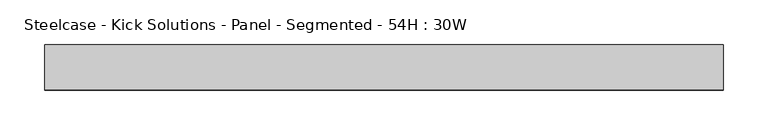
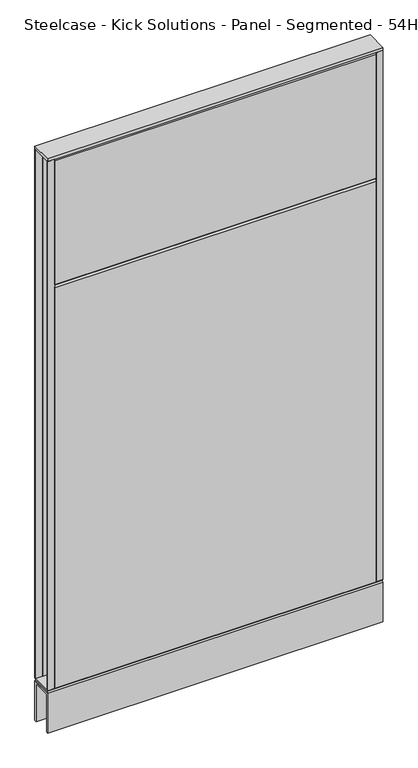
"""IFC4 building model written with IfcOpenShell, lengths in millimetres: furniture geometry, Steelcase - Kick Solutions - Panel - Segmented - 54H : 30W."""

from ifc_helpers import new_model, si_unit, frame, origin, place, context, project, spatial, polyline, outline, extrude, source, transform, mapped, element, save


def steelcase_kick_solutions_panel_segmented_54h_30w_51b34066(model_context):
    return source(origin(), model_context, "Body", "SweptSolid", [
        extrude(outline(polyline([(1.5e-06, 101.600003), (-3.175, 101.600003), (-3.175, 1371.6), (1.5e-06, 1368.5188448), (1.5e-06, 101.600003)])), frame((15.8749996, 0.0, 0.0), z_axis=(1.0, 0.0, 0.0), x_axis=(0.0, 1.0, 0.0)), (0.0, 0.0, 1.0), 730.2500008),
        extrude(outline(polyline([(-50.8000015, 1069.8811552), (-50.8000015, 1368.5188448), (-47.625, 1371.6), (-47.625, 1066.8), (-50.8000015, 1069.8811552)])), frame((15.8749996, 0.0, 0.0), z_axis=(1.0, 0.0, 0.0), x_axis=(0.0, 1.0, 0.0)), (0.0, 0.0, 1.0), 730.2500008),
        extrude(outline(polyline([(-50.8000015, 101.600003), (-50.8000015, 1063.7188448), (-47.625, 1066.8), (-47.625, 101.600003), (-50.8000015, 101.600003)])), frame((15.8749996, 0.0, 0.0), z_axis=(1.0, 0.0, 0.0), x_axis=(0.0, 1.0, 0.0)), (0.0, 0.0, 1.0), 730.2500008),
        extrude(outline(polyline([(762.0, -3.1750015), (746.1250004, -3.1750015), (746.1250004, 0.0), (762.0, 0.0), (762.0, -3.1750015)])), frame((0.0, 0.0, 101.7169049), z_axis=(0.0, 0.0, 1.0), x_axis=(1.0, 0.0, 0.0)), (0.0, 0.0, 1.0), 1269.999997),
        extrude(outline(polyline([(15.8749996, -50.8000015), (0.0, -50.8000015), (0.0, -47.625), (15.8749996, -47.625), (15.8749996, -50.8000015)])), frame((0.0, 0.0, 101.7169049), z_axis=(0.0, 0.0, 1.0), x_axis=(1.0, 0.0, 0.0)), (0.0, 0.0, 1.0), 1269.999997),
        extrude(outline(polyline([(-50.7995075, 101.7169049), (-0.000494, 101.7169049), (-3.0583512, 98.5421458), (-47.7416503, 98.5421458), (-50.7995075, 101.7169049)])), frame((0.0, 0.0, 0.0), z_axis=(1.0, 0.0, 0.0), x_axis=(0.0, 1.0, 0.0)), (0.0, 0.0, 1.0), 762.0),
        extrude(outline(polyline([(762.0, 0.0), (762.0, -50.8000015), (0.0, -50.8000015), (0.0, 0.0), (762.0, 0.0)])), frame((0.0, 0.0, 1371.7169018), z_axis=(0.0, 0.0, 1.0), x_axis=(1.0, 0.0, 0.0)), (0.0, 0.0, 1.0), 6.35),
        extrude(outline(polyline([(15.8749996, -3.1750015), (0.0, -3.1750015), (0.0, 0.0), (15.8749996, 0.0), (15.8749996, -3.1750015)])), frame((0.0, 0.0, 101.7169049), z_axis=(0.0, 0.0, 1.0), x_axis=(1.0, 0.0, 0.0)), (0.0, 0.0, 1.0), 1269.999997),
        extrude(outline(polyline([(762.0, -50.8000015), (746.1250004, -50.8000015), (746.1250004, -47.625), (762.0, -47.625), (762.0, -50.8000015)])), frame((0.0, 0.0, 101.7169049), z_axis=(0.0, 0.0, 1.0), x_axis=(1.0, 0.0, 0.0)), (0.0, 0.0, 1.0), 1269.999997),
        extrude(outline(polyline([(-50.8000015, 95.3668927), (-47.6247484, 98.5421458), (-3.1752531, 98.5421458), (0.0, 95.3668927), (-50.8000015, 95.3668927)])), frame((0.0, 0.0, 0.0), z_axis=(1.0, 0.0, 0.0), x_axis=(0.0, 1.0, 0.0)), (0.0, 0.0, 1.0), 762.0),
        extrude(outline(polyline([(0.0, 0.0), (-5.08, 0.0), (-5.08, 90.2869018), (-45.7200015, 90.2869018), (-45.7200015, 0.0), (-50.8000015, 0.0), (-50.8000015, 95.3669018), (0.0, 95.3669018), (0.0, 0.0)])), frame((0.0, 0.0, 0.0), z_axis=(1.0, 0.0, 0.0), x_axis=(0.0, 1.0, 0.0)), (0.0, 0.0, 1.0), 762.0),
    ])


if __name__ == "__main__":
    model = new_model("IFC4")
    model_context = context("Model", 3, world=origin())
    ifc_project = project(units=[si_unit("LENGTHUNIT", "METRE", prefix="MILLI")], contexts=[model_context])
    site = spatial("IfcSite", under=ifc_project)
    building = spatial("IfcBuilding", under=site)
    placement = place(None, origin())
    steelcase_kick_solutions_panel_segmented_54h_30w_shape = steelcase_kick_solutions_panel_segmented_54h_30w_51b34066(model_context)
    element("IfcFurniture", 1, ObjectType="Steelcase - Kick Solutions - Panel - Segmented - 54H : 30W", at=placement, inside=building, context=model_context, shape_type="MappedRepresentation", body=[
        mapped(steelcase_kick_solutions_panel_segmented_54h_30w_shape, transform((0.0, 0.0, 0.0), x_axis=(1.0, 0.0, 0.0), y_axis=(0.0, 1.0, 0.0), z_axis=(0.0, 0.0, 1.0))),
    ])
    save(model, "model.ifc")
